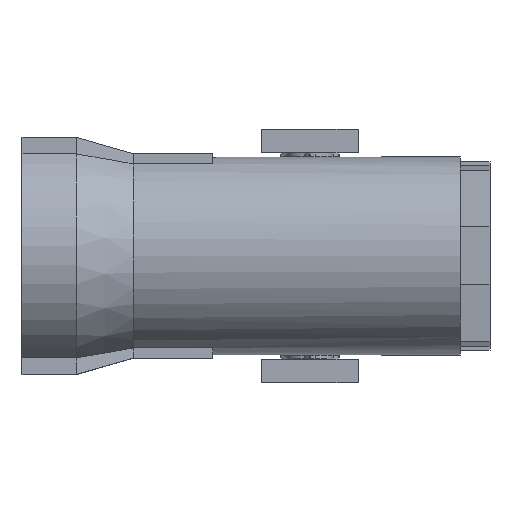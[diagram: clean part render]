
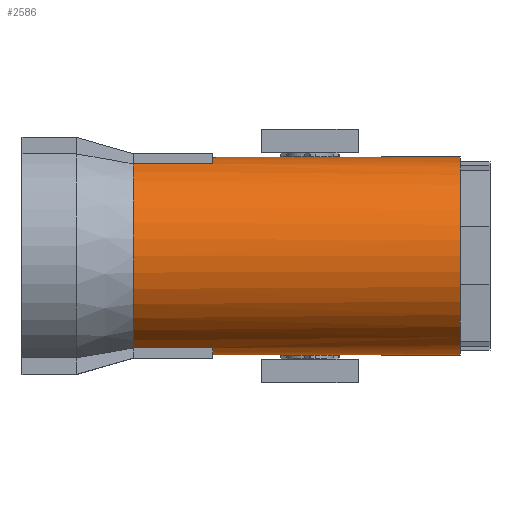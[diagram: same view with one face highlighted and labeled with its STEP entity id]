
A CAD part, top view. The second image highlights one B-rep face of the part: STEP entity #2586.
In plain terms, the highlighted cylindrical face has radius 83 mm (diameter 166 mm), a full revolution.
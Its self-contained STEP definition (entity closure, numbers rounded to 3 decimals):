
#48=CYLINDRICAL_SURFACE('',#2793,83.);
#98=CIRCLE('',#2786,83.);
#99=CIRCLE('',#2788,83.);
#100=CIRCLE('',#2794,83.);
#101=CIRCLE('',#2795,83.);
#102=CIRCLE('',#2796,83.);
#103=CIRCLE('',#2797,83.);
#104=CIRCLE('',#2798,83.);
#105=CIRCLE('',#2799,83.);
#106=CIRCLE('',#2800,83.);
#107=CIRCLE('',#2801,83.);
#108=CIRCLE('',#2802,83.);
#109=CIRCLE('',#2803,83.);
#110=CIRCLE('',#2804,83.);
#111=CIRCLE('',#2805,83.);
#112=CIRCLE('',#2806,83.);
#113=CIRCLE('',#2807,83.);
#226=ORIENTED_EDGE('',*,*,#962,.F.);
#227=ORIENTED_EDGE('',*,*,#963,.F.);
#228=ORIENTED_EDGE('',*,*,#964,.F.);
#229=ORIENTED_EDGE('',*,*,#965,.F.);
#230=ORIENTED_EDGE('',*,*,#966,.F.);
#231=ORIENTED_EDGE('',*,*,#967,.F.);
#232=ORIENTED_EDGE('',*,*,#968,.F.);
#233=ORIENTED_EDGE('',*,*,#969,.F.);
#234=ORIENTED_EDGE('',*,*,#970,.F.);
#235=ORIENTED_EDGE('',*,*,#971,.F.);
#236=ORIENTED_EDGE('',*,*,#972,.F.);
#237=ORIENTED_EDGE('',*,*,#973,.F.);
#238=ORIENTED_EDGE('',*,*,#974,.F.);
#239=ORIENTED_EDGE('',*,*,#953,.F.);
#240=ORIENTED_EDGE('',*,*,#959,.F.);
#241=ORIENTED_EDGE('',*,*,#975,.F.);
#242=ORIENTED_EDGE('',*,*,#946,.F.);
#243=ORIENTED_EDGE('',*,*,#949,.F.);
#244=ORIENTED_EDGE('',*,*,#976,.F.);
#245=ORIENTED_EDGE('',*,*,#977,.F.);
#946=EDGE_CURVE('',#1315,#1312,#1561,.F.);
#949=EDGE_CURVE('',#1317,#1315,#98,.T.);
#953=EDGE_CURVE('',#1321,#1318,#99,.T.);
#959=EDGE_CURVE('',#1325,#1321,#1572,.T.);
#962=EDGE_CURVE('',#1326,#1327,#100,.T.);
#963=EDGE_CURVE('',#1328,#1326,#101,.T.);
#964=EDGE_CURVE('',#1329,#1328,#102,.T.);
#965=EDGE_CURVE('',#1330,#1329,#103,.T.);
#966=EDGE_CURVE('',#1331,#1330,#104,.T.);
#967=EDGE_CURVE('',#1332,#1331,#105,.T.);
#968=EDGE_CURVE('',#1333,#1332,#106,.T.);
#969=EDGE_CURVE('',#1334,#1333,#107,.T.);
#970=EDGE_CURVE('',#1335,#1334,#108,.T.);
#971=EDGE_CURVE('',#1336,#1335,#109,.T.);
#972=EDGE_CURVE('',#1337,#1336,#110,.T.);
#973=EDGE_CURVE('',#1327,#1337,#111,.T.);
#974=EDGE_CURVE('',#1318,#1338,#1574,.F.);
#975=EDGE_CURVE('',#1312,#1325,#112,.T.);
#976=EDGE_CURVE('',#1339,#1317,#1575,.T.);
#977=EDGE_CURVE('',#1338,#1339,#113,.T.);
#1312=VERTEX_POINT('',#3839);
#1315=VERTEX_POINT('',#3850);
#1317=VERTEX_POINT('',#3856);
#1318=VERTEX_POINT('',#3860);
#1321=VERTEX_POINT('',#3865);
#1325=VERTEX_POINT('',#3877);
#1326=VERTEX_POINT('',#3884);
#1327=VERTEX_POINT('',#3885);
#1328=VERTEX_POINT('',#3887);
#1329=VERTEX_POINT('',#3889);
#1330=VERTEX_POINT('',#3891);
#1331=VERTEX_POINT('',#3893);
#1332=VERTEX_POINT('',#3895);
#1333=VERTEX_POINT('',#3897);
#1334=VERTEX_POINT('',#3899);
#1335=VERTEX_POINT('',#3901);
#1336=VERTEX_POINT('',#3903);
#1337=VERTEX_POINT('',#3905);
#1338=VERTEX_POINT('',#3908);
#1339=VERTEX_POINT('',#3911);
#1561=LINE('',#3851,#1835);
#1572=LINE('',#3878,#1846);
#1574=LINE('',#3907,#1848);
#1575=LINE('',#3910,#1849);
#1835=VECTOR('',#3061,1000.);
#1846=VECTOR('',#3084,1000.);
#1848=VECTOR('',#3116,1000.);
#1849=VECTOR('',#3119,1000.);
#2105=EDGE_LOOP('',(#226,#227,#228,#229,#230,#231,#232,#233,#234,#235,#236,
#237));
#2106=EDGE_LOOP('',(#238,#239,#240,#241,#242,#243,#244,#245));
#2291=FACE_BOUND('',#2105,.T.);
#2292=FACE_BOUND('',#2106,.T.);
#2586=ADVANCED_FACE('',(#2291,#2292),#48,.T.);
#2786=AXIS2_PLACEMENT_3D('',#3857,#3066,#3067);
#2788=AXIS2_PLACEMENT_3D('',#3866,#3073,#3074);
#2793=AXIS2_PLACEMENT_3D('',#3882,#3090,#3091);
#2794=AXIS2_PLACEMENT_3D('',#3883,#3092,#3093);
#2795=AXIS2_PLACEMENT_3D('',#3886,#3094,#3095);
#2796=AXIS2_PLACEMENT_3D('',#3888,#3096,#3097);
#2797=AXIS2_PLACEMENT_3D('',#3890,#3098,#3099);
#2798=AXIS2_PLACEMENT_3D('',#3892,#3100,#3101);
#2799=AXIS2_PLACEMENT_3D('',#3894,#3102,#3103);
#2800=AXIS2_PLACEMENT_3D('',#3896,#3104,#3105);
#2801=AXIS2_PLACEMENT_3D('',#3898,#3106,#3107);
#2802=AXIS2_PLACEMENT_3D('',#3900,#3108,#3109);
#2803=AXIS2_PLACEMENT_3D('',#3902,#3110,#3111);
#2804=AXIS2_PLACEMENT_3D('',#3904,#3112,#3113);
#2805=AXIS2_PLACEMENT_3D('',#3906,#3114,#3115);
#2806=AXIS2_PLACEMENT_3D('',#3909,#3117,#3118);
#2807=AXIS2_PLACEMENT_3D('',#3912,#3120,#3121);
#3061=DIRECTION('',(1.,0.,0.));
#3066=DIRECTION('',(-1.,0.,0.));
#3067=DIRECTION('',(0.,0.,1.));
#3073=DIRECTION('',(-1.,0.,0.));
#3074=DIRECTION('',(0.,0.,1.));
#3084=DIRECTION('',(1.,0.,0.));
#3090=DIRECTION('',(1.,0.,0.));
#3091=DIRECTION('',(0.,0.,-1.));
#3092=DIRECTION('',(1.,0.,0.));
#3093=DIRECTION('',(0.,0.,-1.));
#3094=DIRECTION('',(1.,0.,0.));
#3095=DIRECTION('',(0.,0.,-1.));
#3096=DIRECTION('',(1.,0.,0.));
#3097=DIRECTION('',(0.,0.,-1.));
#3098=DIRECTION('',(1.,0.,0.));
#3099=DIRECTION('',(0.,0.,-1.));
#3100=DIRECTION('',(1.,0.,0.));
#3101=DIRECTION('',(0.,0.,-1.));
#3102=DIRECTION('',(1.,0.,0.));
#3103=DIRECTION('',(0.,0.,-1.));
#3104=DIRECTION('',(1.,0.,0.));
#3105=DIRECTION('',(0.,0.,-1.));
#3106=DIRECTION('',(1.,0.,0.));
#3107=DIRECTION('',(0.,0.,-1.));
#3108=DIRECTION('',(1.,0.,0.));
#3109=DIRECTION('',(0.,0.,-1.));
#3110=DIRECTION('',(1.,0.,0.));
#3111=DIRECTION('',(0.,0.,-1.));
#3112=DIRECTION('',(1.,0.,0.));
#3113=DIRECTION('',(0.,0.,-1.));
#3114=DIRECTION('',(1.,0.,0.));
#3115=DIRECTION('',(0.,0.,-1.));
#3116=DIRECTION('',(1.,0.,0.));
#3117=DIRECTION('',(-1.,0.,0.));
#3118=DIRECTION('',(0.,0.,1.));
#3119=DIRECTION('',(1.,0.,0.));
#3120=DIRECTION('',(-1.,0.,0.));
#3121=DIRECTION('',(0.,0.,1.));
#3839=CARTESIAN_POINT('',(-50.84,-77.073,30.802));
#3850=CARTESIAN_POINT('',(15.737,-77.073,30.802));
#3851=CARTESIAN_POINT('',(-500000.,-77.073,30.802));
#3856=CARTESIAN_POINT('',(15.737,-77.073,-30.802));
#3857=CARTESIAN_POINT('',(15.737,0.,0.));
#3860=CARTESIAN_POINT('',(15.737,77.073,-30.802));
#3865=CARTESIAN_POINT('',(15.737,77.073,30.802));
#3866=CARTESIAN_POINT('',(15.737,0.,0.));
#3877=CARTESIAN_POINT('',(-50.84,77.073,30.802));
#3878=CARTESIAN_POINT('',(-500000.,77.073,30.802));
#3882=CARTESIAN_POINT('',(-500000.,0.,0.));
#3883=CARTESIAN_POINT('',(223.,0.,0.));
#3884=CARTESIAN_POINT('',(223.,77.667,-29.271));
#3885=CARTESIAN_POINT('',(223.,78.831,-25.974));
#3886=CARTESIAN_POINT('',(223.,0.,0.));
#3887=CARTESIAN_POINT('',(223.,-77.667,-29.271));
#3888=CARTESIAN_POINT('',(223.,0.,0.));
#3889=CARTESIAN_POINT('',(223.,-78.831,-25.974));
#3890=CARTESIAN_POINT('',(223.,0.,0.));
#3891=CARTESIAN_POINT('',(223.,-78.831,25.974));
#3892=CARTESIAN_POINT('',(223.,0.,0.));
#3893=CARTESIAN_POINT('',(223.,-77.513,29.678));
#3894=CARTESIAN_POINT('',(223.,0.,0.));
#3895=CARTESIAN_POINT('',(223.,-74.743,36.09));
#3896=CARTESIAN_POINT('',(223.,0.,0.));
#3897=CARTESIAN_POINT('',(223.,-49.499,66.624));
#3898=CARTESIAN_POINT('',(223.,0.,0.));
#3899=CARTESIAN_POINT('',(223.,49.499,66.624));
#3900=CARTESIAN_POINT('',(223.,0.,0.));
#3901=CARTESIAN_POINT('',(223.,74.743,36.09));
#3902=CARTESIAN_POINT('',(223.,0.,0.));
#3903=CARTESIAN_POINT('',(223.,77.513,29.678));
#3904=CARTESIAN_POINT('',(223.,0.,0.));
#3905=CARTESIAN_POINT('',(223.,78.831,25.974));
#3906=CARTESIAN_POINT('',(223.,0.,0.));
#3907=CARTESIAN_POINT('',(-500000.,77.073,-30.802));
#3908=CARTESIAN_POINT('',(-50.84,77.073,-30.802));
#3909=CARTESIAN_POINT('',(-50.84,0.,0.));
#3910=CARTESIAN_POINT('',(-500000.,-77.073,-30.802));
#3911=CARTESIAN_POINT('',(-50.84,-77.073,-30.802));
#3912=CARTESIAN_POINT('',(-50.84,0.,0.));
